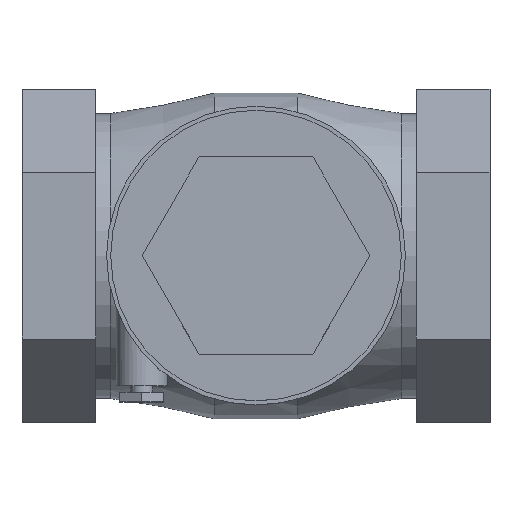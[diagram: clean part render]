
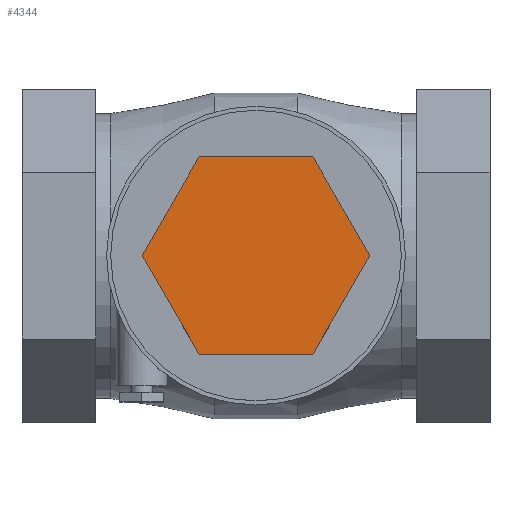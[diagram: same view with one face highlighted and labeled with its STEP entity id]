
A CAD part, top view. The second image highlights one B-rep face of the part: STEP entity #4344.
In plain terms, the highlighted planar face has unit normal (0, 0, 1).
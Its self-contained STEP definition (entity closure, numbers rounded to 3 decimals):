
#348 = PLANE('',#349);
#349 = AXIS2_PLACEMENT_3D('',#350,#351,#352);
#350 = CARTESIAN_POINT('',(2.15,-0.906,2.273));
#351 = DIRECTION('',(0.,-1.,0.));
#352 = DIRECTION('',(1.,0.,0.));
#376 = PLANE('',#377);
#377 = AXIS2_PLACEMENT_3D('',#378,#379,#380);
#378 = CARTESIAN_POINT('',(1.365,-0.453,2.273));
#379 = DIRECTION('',(-0.866,-0.5,0.));
#380 = DIRECTION('',(0.5,-0.866,0.));
#404 = PLANE('',#405);
#405 = AXIS2_PLACEMENT_3D('',#406,#407,#408);
#406 = CARTESIAN_POINT('',(1.365,0.453,2.273));
#407 = DIRECTION('',(-0.866,0.5,0.));
#408 = DIRECTION('',(-0.5,-0.866,0.));
#432 = PLANE('',#433);
#433 = AXIS2_PLACEMENT_3D('',#434,#435,#436);
#434 = CARTESIAN_POINT('',(2.15,0.906,2.273));
#435 = DIRECTION('',(0.,1.,0.));
#436 = DIRECTION('',(-1.,0.,0.));
#460 = PLANE('',#461);
#461 = AXIS2_PLACEMENT_3D('',#462,#463,#464);
#462 = CARTESIAN_POINT('',(2.935,0.453,2.273));
#463 = DIRECTION('',(0.866,0.5,0.));
#464 = DIRECTION('',(-0.5,0.866,0.));
#486 = PLANE('',#487);
#487 = AXIS2_PLACEMENT_3D('',#488,#489,#490);
#488 = CARTESIAN_POINT('',(2.935,-0.453,2.273));
#489 = DIRECTION('',(0.866,-0.5,0.));
#490 = DIRECTION('',(0.5,0.866,0.));
#4049 = EDGE_CURVE('',#4050,#4052,#4054,.T.);
#4050 = VERTEX_POINT('',#4051);
#4051 = CARTESIAN_POINT('',(2.673,-0.906,2.68));
#4052 = VERTEX_POINT('',#4053);
#4053 = CARTESIAN_POINT('',(1.627,-0.906,2.68));
#4054 = SURFACE_CURVE('',#4055,(#4059,#4066),.PCURVE_S1.);
#4055 = LINE('',#4056,#4057);
#4056 = CARTESIAN_POINT('',(1.627,-0.906,2.68));
#4057 = VECTOR('',#4058,1.);
#4058 = DIRECTION('',(-1.,0.,0.));
#4059 = PCURVE('',#348,#4060);
#4060 = DEFINITIONAL_REPRESENTATION('',(#4061),#4065);
#4061 = LINE('',#4062,#4063);
#4062 = CARTESIAN_POINT('',(-0.523,0.407));
#4063 = VECTOR('',#4064,1.);
#4064 = DIRECTION('',(-1.,0.));
#4065 = ( GEOMETRIC_REPRESENTATION_CONTEXT(2) 
PARAMETRIC_REPRESENTATION_CONTEXT() REPRESENTATION_CONTEXT('2D SPACE',''
  ) );
#4066 = PCURVE('',#4067,#4072);
#4067 = PLANE('',#4068);
#4068 = AXIS2_PLACEMENT_3D('',#4069,#4070,#4071);
#4069 = CARTESIAN_POINT('',(2.15,0.,2.68));
#4070 = DIRECTION('',(0.,0.,1.));
#4071 = DIRECTION('',(1.,0.,-0.));
#4072 = DEFINITIONAL_REPRESENTATION('',(#4073),#4077);
#4073 = LINE('',#4074,#4075);
#4074 = CARTESIAN_POINT('',(-0.523,-0.906));
#4075 = VECTOR('',#4076,1.);
#4076 = DIRECTION('',(-1.,0.));
#4077 = ( GEOMETRIC_REPRESENTATION_CONTEXT(2) 
PARAMETRIC_REPRESENTATION_CONTEXT() REPRESENTATION_CONTEXT('2D SPACE',''
  ) );
#4125 = EDGE_CURVE('',#4052,#4126,#4128,.T.);
#4126 = VERTEX_POINT('',#4127);
#4127 = CARTESIAN_POINT('',(1.104,0.,2.68));
#4128 = SURFACE_CURVE('',#4129,(#4133,#4140),.PCURVE_S1.);
#4129 = LINE('',#4130,#4131);
#4130 = CARTESIAN_POINT('',(1.104,0.,2.68));
#4131 = VECTOR('',#4132,1.);
#4132 = DIRECTION('',(-0.5,0.866,0.));
#4133 = PCURVE('',#376,#4134);
#4134 = DEFINITIONAL_REPRESENTATION('',(#4135),#4139);
#4135 = LINE('',#4136,#4137);
#4136 = CARTESIAN_POINT('',(-0.523,0.407));
#4137 = VECTOR('',#4138,1.);
#4138 = DIRECTION('',(-1.,0.));
#4139 = ( GEOMETRIC_REPRESENTATION_CONTEXT(2) 
PARAMETRIC_REPRESENTATION_CONTEXT() REPRESENTATION_CONTEXT('2D SPACE',''
  ) );
#4140 = PCURVE('',#4067,#4141);
#4141 = DEFINITIONAL_REPRESENTATION('',(#4142),#4146);
#4142 = LINE('',#4143,#4144);
#4143 = CARTESIAN_POINT('',(-1.046,0.));
#4144 = VECTOR('',#4145,1.);
#4145 = DIRECTION('',(-0.5,0.866));
#4146 = ( GEOMETRIC_REPRESENTATION_CONTEXT(2) 
PARAMETRIC_REPRESENTATION_CONTEXT() REPRESENTATION_CONTEXT('2D SPACE',''
  ) );
#4174 = EDGE_CURVE('',#4126,#4175,#4177,.T.);
#4175 = VERTEX_POINT('',#4176);
#4176 = CARTESIAN_POINT('',(1.627,0.906,2.68));
#4177 = SURFACE_CURVE('',#4178,(#4182,#4189),.PCURVE_S1.);
#4178 = LINE('',#4179,#4180);
#4179 = CARTESIAN_POINT('',(1.627,0.906,2.68));
#4180 = VECTOR('',#4181,1.);
#4181 = DIRECTION('',(0.5,0.866,0.));
#4182 = PCURVE('',#404,#4183);
#4183 = DEFINITIONAL_REPRESENTATION('',(#4184),#4188);
#4184 = LINE('',#4185,#4186);
#4185 = CARTESIAN_POINT('',(-0.523,0.407));
#4186 = VECTOR('',#4187,1.);
#4187 = DIRECTION('',(-1.,0.));
#4188 = ( GEOMETRIC_REPRESENTATION_CONTEXT(2) 
PARAMETRIC_REPRESENTATION_CONTEXT() REPRESENTATION_CONTEXT('2D SPACE',''
  ) );
#4189 = PCURVE('',#4067,#4190);
#4190 = DEFINITIONAL_REPRESENTATION('',(#4191),#4195);
#4191 = LINE('',#4192,#4193);
#4192 = CARTESIAN_POINT('',(-0.523,0.906));
#4193 = VECTOR('',#4194,1.);
#4194 = DIRECTION('',(0.5,0.866));
#4195 = ( GEOMETRIC_REPRESENTATION_CONTEXT(2) 
PARAMETRIC_REPRESENTATION_CONTEXT() REPRESENTATION_CONTEXT('2D SPACE',''
  ) );
#4223 = EDGE_CURVE('',#4175,#4224,#4226,.T.);
#4224 = VERTEX_POINT('',#4225);
#4225 = CARTESIAN_POINT('',(2.673,0.906,2.68));
#4226 = SURFACE_CURVE('',#4227,(#4231,#4238),.PCURVE_S1.);
#4227 = LINE('',#4228,#4229);
#4228 = CARTESIAN_POINT('',(2.673,0.906,2.68));
#4229 = VECTOR('',#4230,1.);
#4230 = DIRECTION('',(1.,0.,0.));
#4231 = PCURVE('',#432,#4232);
#4232 = DEFINITIONAL_REPRESENTATION('',(#4233),#4237);
#4233 = LINE('',#4234,#4235);
#4234 = CARTESIAN_POINT('',(-0.523,0.407));
#4235 = VECTOR('',#4236,1.);
#4236 = DIRECTION('',(-1.,0.));
#4237 = ( GEOMETRIC_REPRESENTATION_CONTEXT(2) 
PARAMETRIC_REPRESENTATION_CONTEXT() REPRESENTATION_CONTEXT('2D SPACE',''
  ) );
#4238 = PCURVE('',#4067,#4239);
#4239 = DEFINITIONAL_REPRESENTATION('',(#4240),#4244);
#4240 = LINE('',#4241,#4242);
#4241 = CARTESIAN_POINT('',(0.523,0.906));
#4242 = VECTOR('',#4243,1.);
#4243 = DIRECTION('',(1.,0.));
#4244 = ( GEOMETRIC_REPRESENTATION_CONTEXT(2) 
PARAMETRIC_REPRESENTATION_CONTEXT() REPRESENTATION_CONTEXT('2D SPACE',''
  ) );
#4272 = EDGE_CURVE('',#4224,#4273,#4275,.T.);
#4273 = VERTEX_POINT('',#4274);
#4274 = CARTESIAN_POINT('',(3.196,0.,2.68));
#4275 = SURFACE_CURVE('',#4276,(#4280,#4287),.PCURVE_S1.);
#4276 = LINE('',#4277,#4278);
#4277 = CARTESIAN_POINT('',(3.196,0.,2.68));
#4278 = VECTOR('',#4279,1.);
#4279 = DIRECTION('',(0.5,-0.866,0.));
#4280 = PCURVE('',#460,#4281);
#4281 = DEFINITIONAL_REPRESENTATION('',(#4282),#4286);
#4282 = LINE('',#4283,#4284);
#4283 = CARTESIAN_POINT('',(-0.523,0.407));
#4284 = VECTOR('',#4285,1.);
#4285 = DIRECTION('',(-1.,0.));
#4286 = ( GEOMETRIC_REPRESENTATION_CONTEXT(2) 
PARAMETRIC_REPRESENTATION_CONTEXT() REPRESENTATION_CONTEXT('2D SPACE',''
  ) );
#4287 = PCURVE('',#4067,#4288);
#4288 = DEFINITIONAL_REPRESENTATION('',(#4289),#4293);
#4289 = LINE('',#4290,#4291);
#4290 = CARTESIAN_POINT('',(1.046,0.));
#4291 = VECTOR('',#4292,1.);
#4292 = DIRECTION('',(0.5,-0.866));
#4293 = ( GEOMETRIC_REPRESENTATION_CONTEXT(2) 
PARAMETRIC_REPRESENTATION_CONTEXT() REPRESENTATION_CONTEXT('2D SPACE',''
  ) );
#4321 = EDGE_CURVE('',#4273,#4050,#4322,.T.);
#4322 = SURFACE_CURVE('',#4323,(#4327,#4334),.PCURVE_S1.);
#4323 = LINE('',#4324,#4325);
#4324 = CARTESIAN_POINT('',(2.673,-0.906,2.68));
#4325 = VECTOR('',#4326,1.);
#4326 = DIRECTION('',(-0.5,-0.866,0.));
#4327 = PCURVE('',#486,#4328);
#4328 = DEFINITIONAL_REPRESENTATION('',(#4329),#4333);
#4329 = LINE('',#4330,#4331);
#4330 = CARTESIAN_POINT('',(-0.523,0.407));
#4331 = VECTOR('',#4332,1.);
#4332 = DIRECTION('',(-1.,0.));
#4333 = ( GEOMETRIC_REPRESENTATION_CONTEXT(2) 
PARAMETRIC_REPRESENTATION_CONTEXT() REPRESENTATION_CONTEXT('2D SPACE',''
  ) );
#4334 = PCURVE('',#4067,#4335);
#4335 = DEFINITIONAL_REPRESENTATION('',(#4336),#4340);
#4336 = LINE('',#4337,#4338);
#4337 = CARTESIAN_POINT('',(0.523,-0.906));
#4338 = VECTOR('',#4339,1.);
#4339 = DIRECTION('',(-0.5,-0.866));
#4340 = ( GEOMETRIC_REPRESENTATION_CONTEXT(2) 
PARAMETRIC_REPRESENTATION_CONTEXT() REPRESENTATION_CONTEXT('2D SPACE',''
  ) );
#4344 = ADVANCED_FACE('',(#4345),#4067,.T.);
#4345 = FACE_BOUND('',#4346,.T.);
#4346 = EDGE_LOOP('',(#4347,#4348,#4349,#4350,#4351,#4352));
#4347 = ORIENTED_EDGE('',*,*,#4049,.F.);
#4348 = ORIENTED_EDGE('',*,*,#4321,.F.);
#4349 = ORIENTED_EDGE('',*,*,#4272,.F.);
#4350 = ORIENTED_EDGE('',*,*,#4223,.F.);
#4351 = ORIENTED_EDGE('',*,*,#4174,.F.);
#4352 = ORIENTED_EDGE('',*,*,#4125,.F.);
